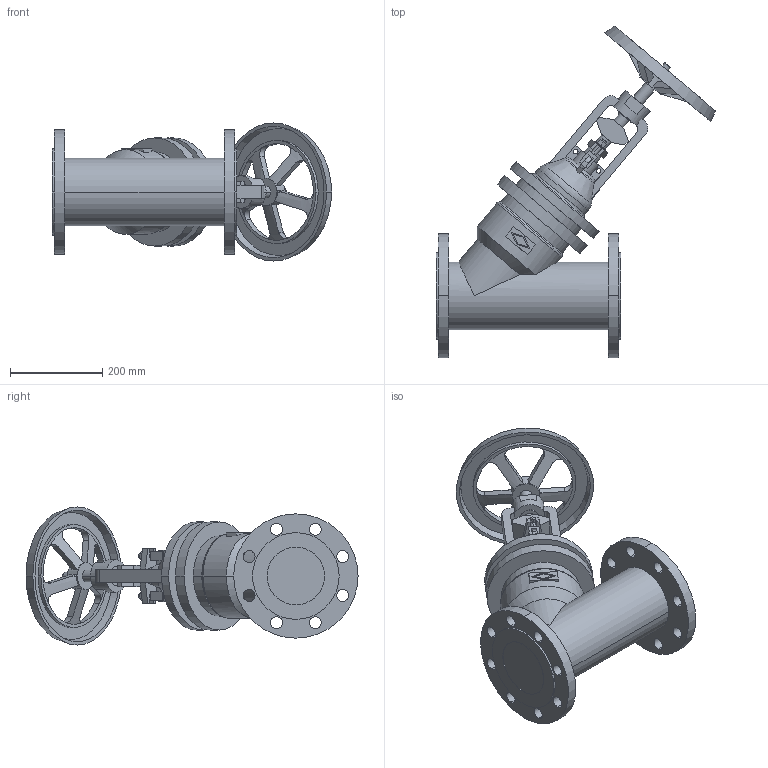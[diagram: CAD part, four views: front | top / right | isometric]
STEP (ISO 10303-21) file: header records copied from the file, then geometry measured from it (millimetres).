
FILE_DESCRIPTION(('OneSpaceDesigner STEP Export'),'2;1');
FILE_NAME('c000004410.stp','2010-05-10T 9:28:44',(''),(''),'OneSpace Designer STEP processor for AP214 (Solid Model)','OneSpace Modeling 15.50B 03-Nov-2007 (C) CoCreate Software GmbH','');
FILE_SCHEMA(('AUTOMOTIVE_DESIGN { 1 0 10303 214 1 1 1 1 }'));
Length unit declared in the file: millimetre
Products named in the file (1): 1
Bounding box: 606.31 x 721.13 x 300 mm (x, y, z)
Volume: 16396053.8 mm3; surface area: 898357.3 mm2
Topology: 1 solids, 1 shells, 314 faces, 821 edges, 534 vertices
Faces by surface type: plane 149, cylinder 125, cone 24, torus 16
Entity records: 11907 total; most frequent: CARTESIAN_POINT 2138, ORIENTED_EDGE 1642, DIRECTION 1318, EDGE_CURVE 821, VERTEX_POINT 534, AXIS2_PLACEMENT_3D 448, VECTOR 422, LINE 422
